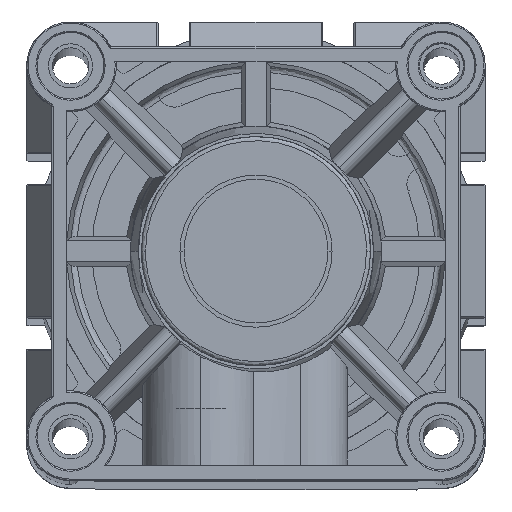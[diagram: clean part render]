
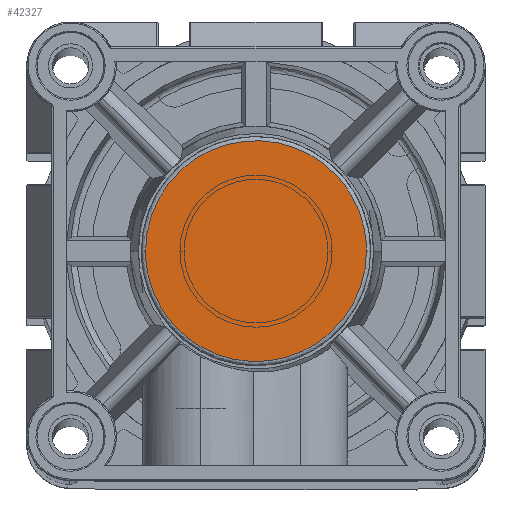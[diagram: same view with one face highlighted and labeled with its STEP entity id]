
A CAD part, top view. The second image highlights one B-rep face of the part: STEP entity #42327.
In plain terms, the highlighted planar face has unit normal (0, 0, 1).
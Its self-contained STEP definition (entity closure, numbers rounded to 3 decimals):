
#2899 = EDGE_CURVE ( 'NONE', #7562, #25643, #34521, .T. ) ;
#3566 = EDGE_LOOP ( 'NONE', ( #41770, #38309 ) ) ;
#5412 =( BOUNDED_CURVE ( )  B_SPLINE_CURVE ( 3, ( #45030, #8900, #45199, #23408 ),
 .UNSPECIFIED., .F., .F. ) 
 B_SPLINE_CURVE_WITH_KNOTS ( ( 4, 4 ),
 ( 0., 1. ),
 .UNSPECIFIED. ) 
 CURVE ( )  GEOMETRIC_REPRESENTATION_ITEM ( )  RATIONAL_B_SPLINE_CURVE ( ( 0.957, 0.319, 0.319, 0.957 ) ) 
 REPRESENTATION_ITEM ( '' )  );
#7562 = VERTEX_POINT ( 'NONE', #41293 ) ;
#8900 = CARTESIAN_POINT ( 'NONE',  ( 22.5, 102., 43. ) ) ;
#12212 = DIRECTION ( 'NONE',  ( 0., 0., 1. ) ) ;
#16415 = CARTESIAN_POINT ( 'NONE',  ( 22.5, 49., 43. ) ) ;
#23408 = CARTESIAN_POINT ( 'NONE',  ( 75.5, 49., 43. ) ) ;
#25643 = VERTEX_POINT ( 'NONE', #38339 ) ;
#33005 = CARTESIAN_POINT ( 'NONE',  ( 75.5, 49., 43. ) ) ;
#33910 = CARTESIAN_POINT ( 'NONE',  ( 22.182, 22.182, 43. ) ) ;
#34521 =( BOUNDED_CURVE ( )  B_SPLINE_CURVE ( 3, ( #33005, #46324, #46438, #16415 ),
 .UNSPECIFIED., .F., .T. ) 
 B_SPLINE_CURVE_WITH_KNOTS ( ( 4, 4 ),
 ( 0., 1. ),
 .UNSPECIFIED. ) 
 CURVE ( )  GEOMETRIC_REPRESENTATION_ITEM ( )  RATIONAL_B_SPLINE_CURVE ( ( 0.957, 0.319, 0.319, 0.957 ) ) 
 REPRESENTATION_ITEM ( '' )  );
#37258 = AXIS2_PLACEMENT_3D ( 'NONE', #33910, #12212, #37525 ) ;
#37369 = PLANE ( 'NONE',  #37258 ) ;
#37525 = DIRECTION ( 'NONE',  ( 1., 0., 0. ) ) ;
#38309 = ORIENTED_EDGE ( 'NONE', *, *, #2899, .F. ) ;
#38339 = CARTESIAN_POINT ( 'NONE',  ( 22.5, 49., 43. ) ) ;
#41293 = CARTESIAN_POINT ( 'NONE',  ( 75.5, 49., 43. ) ) ;
#41533 = EDGE_CURVE ( 'NONE', #25643, #7562, #5412, .T. ) ;
#41770 = ORIENTED_EDGE ( 'NONE', *, *, #41533, .F. ) ;
#42327 = ADVANCED_FACE ( 'NONE', ( #44822 ), #37369, .T. ) ;
#44822 = FACE_OUTER_BOUND ( 'NONE', #3566, .T. ) ;
#45030 = CARTESIAN_POINT ( 'NONE',  ( 22.5, 49., 43. ) ) ;
#45199 = CARTESIAN_POINT ( 'NONE',  ( 75.5, 102., 43. ) ) ;
#46324 = CARTESIAN_POINT ( 'NONE',  ( 75.5, -4., 43. ) ) ;
#46438 = CARTESIAN_POINT ( 'NONE',  ( 22.5, -4., 43. ) ) ;
